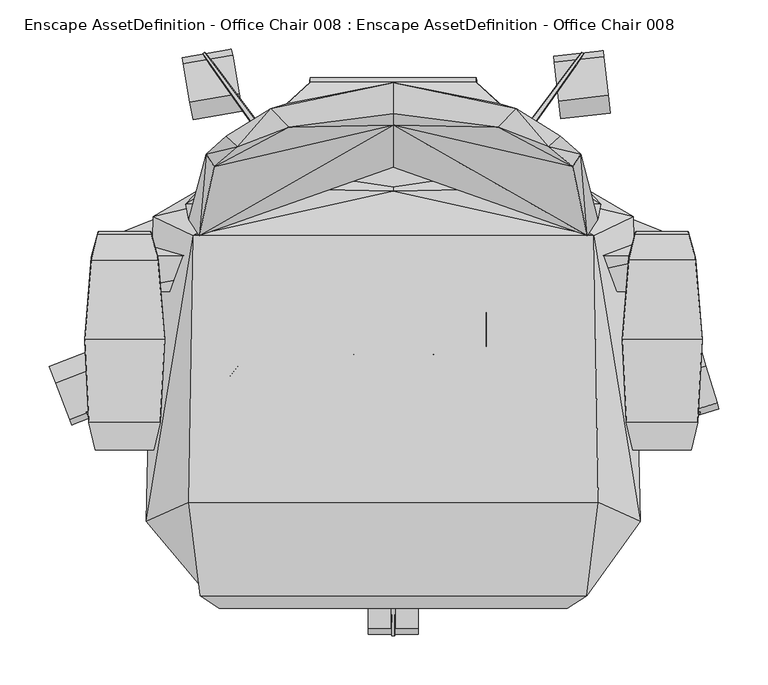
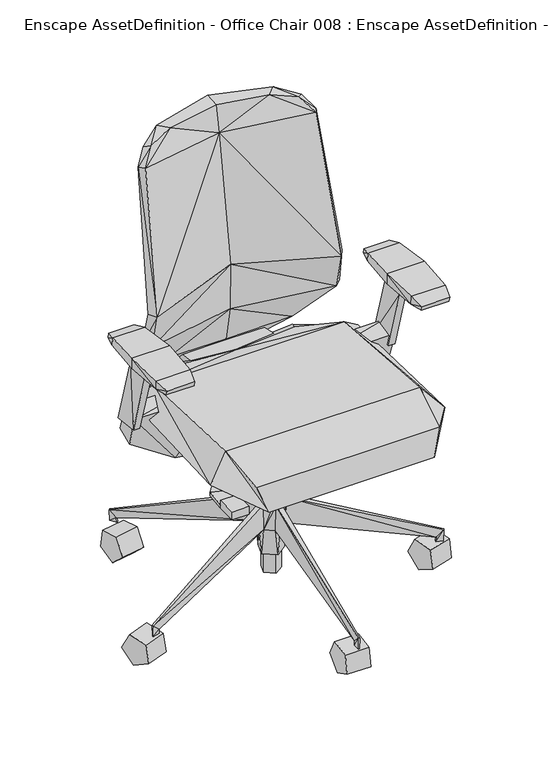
"""IFC4 building model written with IfcOpenShell, lengths in millimetres: geographic element geometry, Enscape AssetDefinition - Office Chair 008 : Enscape AssetDefinition - Office Chair 008."""

from ifc_helpers import new_model, si_unit, origin, place, context, project, spatial, triangles, source, transform, mapped, element, save


def enscape_assetdefinition_office_chair_008_enscape_9297afb8(model_context):
    return source(origin(), model_context, "Body", "Tessellation", [
        triangles([(94.0160001, -169.0780154, 350.5330007), (-41.1500001, 32.5150007, 276.5299959), (0.0, 42.3710011, 276.5299959), (-69.9929979, -44.1749971, 277.4339923), (0.0, -44.1749971, 277.4339923), (0.0, 42.3710011, 392.1990257), (-41.1500001, 32.5150007, 392.1990257), (-69.9929979, -42.6339983, 392.1990257), (0.0, -195.0089908, 392.1990257), (64.8010001, -195.0089908, 392.1990257), (69.9929979, -42.6339983, 392.1990257), (41.1500001, 32.5150007, 276.5299959), (41.1500001, 32.5150007, 392.1990257), (69.9929979, -44.1749971, 277.4339923), (94.0160001, -44.1749971, 287.9039928), (94.0160001, -167.0699985, 392.1990257), (94.0160001, -42.6339983, 392.1990257), (64.8010001, -197.0170077, 364.5410119), (0.0, -197.0170077, 364.5410119), (-64.8010001, -197.0170077, 364.5410119), (-94.0160001, -169.0780154, 350.5330007), (-94.0160001, -44.1749971, 287.9039928), (-94.0160001, -42.6339983, 392.1990257), (-94.0160001, -167.0699985, 392.1990257), (-64.8010001, -195.0089908, 392.1990257), (99.6929973, 132.0540035, 384.2819944), (171.6740052, 99.9650011, 374.3849968), (0.0, 159.2989975, 449.055003), (0.0, 132.0620063, 384.3080103), (0.0, 97.5530026, 376.0269751), (244.393004, 98.9459953, 456.6650036), (251.576014, -211.6129918, 455.6229887), (139.2340068, 160.859004, 457.6929932), (204.0370008, 79.8559996, 489.5670287), (-99.6929973, 132.0540035, 384.2819944), (-139.2340068, 160.859004, 457.6929932), (-171.6740052, 99.9650011, 374.3849968), (-244.393004, 98.9459953, 456.6650036), (-123.9359943, 127.2830102, 477.9960053), (-171.8530096, -198.8829912, 386.9519986), (-109.2199958, -217.8680061, 376.5969984), (-208.5659939, -192.4750066, 505.0380321), (-177.3339977, -300.5470074, 422.4410025), (-251.576014, -211.6129918, 455.6229887), (0.0, 124.7010003, 471.6459932), (-204.0370008, 79.8559996, 489.5670287), (0.0, 79.8559996, 489.5670287), (-196.986995, -287.4579989, 476.4519862), (0.0, -300.5470074, 422.4410025), (196.986995, -287.4579989, 476.4519862), (0.0, -192.4750066, 505.0380321), (0.0, -287.4579989, 476.4519862), (208.5659939, -192.4750066, 505.0380321), (123.9359943, 127.2830102, 477.9960053), (109.2199958, -217.8680061, 376.5969984), (177.3339977, -300.5470074, 422.4410025), (0.0, -221.1680045, 374.0479897), (171.8530096, -198.8829912, 386.9519986), (0.0, -198.8839904, 386.9839734), (0.0, -11.5080003, 239.8640109), (10.9449999, -3.556, 239.8640109), (0.0, -11.5080003, 278.967002), (10.9449999, -3.556, 278.967002), (6.7639999, 9.3099996, 278.967002), (-6.7639999, 9.3099996, 239.8640109), (-10.9449999, -3.556, 278.967002), (-24.882, -8.0850006, 239.8640109), (-10.9449999, -3.556, 239.8640109), (-6.7639999, 9.3099996, 278.967002), (6.7639999, 9.3099996, 239.8640109), (24.882, -8.0850006, 239.8640109), (15.3780005, 21.166, 239.8640109), (12.2360003, 25.5870011, 211.4469954), (184.992996, 252.1330112, 66.4979986), (194.2500073, 264.9049969, 91.141003), (191.9119959, 266.6099982, 91.1449998), (10.9360001, 24.5560002, 153.8469865), (186.0129919, 252.3950047, 76.8970051), (191.7420027, 265.6599835, 66.4490009), (182.5610042, 254.9040085, 76.8970051), (182.6259893, 253.8520015, 66.4979986), (193.4059999, 264.4509912, 66.4490009), (19.974998, 17.9890001, 153.8469865), (25.0069992, -8.1249997, 97.0370003), (20.5529992, 19.5439992, 211.4469954), (28.1160005, -3.7310001, 211.4469954), (24.9390006, -13.5080009, 211.4469954), (297.5240088, -98.9150016, 76.8970051), (311.965987, -102.8820014, 91.141003), (296.9580005, -98.0250032, 66.4979986), (311.2739871, -102.2209953, 66.4490009), (312.8649874, -100.1320058, 91.1449998), (311.9099948, -100.2640017, 66.4490009), (26.7339991, -2.8119999, 153.8469865), (298.8420061, -94.8560015, 76.8970051), (297.8619969, -95.2429964, 66.4979986), (23.2810008, -13.4389996, 153.8469865), (15.455, 21.2720005, 97.0370003), (-18.883999, -6.1360001, 97.0370003), (0.0, -19.8560009, 97.0370003), (0.0, -26.2940005, 97.0370003), (18.883999, -6.1360001, 97.0370003), (-10.9360001, 24.5560002, 153.8469865), (11.6710002, 16.0639995, 97.0370003), (-11.6710002, 16.0639995, 97.0370003), (11.6710002, 16.0639995, 51.6509988), (0.0, 0.0, 51.6509988), (18.883999, -6.1360001, 51.6509988), (0.0, -19.8560009, 51.6509988), (-18.883999, -6.1360001, 51.6509988), (-11.6710002, 16.0639995, 51.6509988), (-25.0069992, -8.1249997, 97.0370003), (5.587, -26.2940005, 153.8469865), (-5.1400001, -27.8919998, 211.4469954), (-5.587, -26.2940005, 153.8469865), (-2.1339999, -313.527992, 76.8970051), (2.1339999, -313.527992, 76.8970051), (0.0, -26.1630015, 239.8640109), (5.1400001, -27.8919998, 211.4469954), (-1.4440001, -328.4889974, 91.141003), (1.4629999, -312.7149965, 66.4979986), (-1.462, -312.7149965, 66.4979986), (1.029, -327.626986, 66.4490009), (1.4499999, -328.4949926, 91.1449998), (-1.029, -327.626986, 66.4490009), (-23.2810008, -13.4389996, 153.8469865), (-15.3780005, 21.166, 239.8640109), (-24.9390006, -13.5080009, 211.4469954), (-312.8579747, -100.1349943, 91.141003), (-311.9690028, -102.889005, 91.1449998), (-311.9099948, -100.2640017, 66.4490009), (-28.1160005, -3.7310001, 211.4469954), (-297.8619969, -95.2439956, 66.4979986), (-311.2739871, -102.2209953, 66.4490009), (-297.5240088, -98.9150016, 76.8970051), (-296.9580005, -98.0250032, 66.4979986), (-26.7339991, -2.8119999, 153.8469865), (-298.8420061, -94.8560015, 76.8970051), (-15.455, 21.2720005, 97.0370003), (-19.974998, 17.9890001, 153.8469865), (-20.5529992, 19.5439992, 211.4469954), (-194.2570018, 264.9059961, 91.1449998), (-186.0139911, 252.3950047, 76.8970051), (-193.4059999, 264.4509912, 66.4490009), (-191.7420027, 265.6599835, 66.4490009), (-182.5610042, 254.9040085, 76.8970051), (-184.992996, 252.1319939, 66.4979986), (-182.6259893, 253.8520015, 66.4979986), (-12.2360003, 25.5870011, 211.4469954), (-191.9129951, 266.6020045, 91.141003), (265.3310065, 78.0479977, 443.8079759), (265.4019869, 32.7249988, 598.35799), (267.1110033, 25.1849998, 446.0220122), (282.2270137, 78.0489969, 443.803979), (254.2380063, 58.8979992, 628.590992), (282.2209821, 32.7260003, 598.3539931), (293.3889959, 58.8999977, 628.5840157), (280.4549925, 25.1849998, 446.0189964), (266.7880033, -17.8769997, 591.3289859), (256.5459868, -116.0930047, 632.2699825), (291.0929878, -116.0919964, 632.2630062), (280.835002, -17.8919993, 591.3230269), (-265.3310065, 78.0479977, 443.8079759), (-267.1110033, 25.1849998, 446.0220122), (-282.2270137, 78.0489969, 443.803979), (-280.4549925, 25.1849998, 446.0189964), (-280.835002, -17.8919993, 591.3230269), (-282.2209821, 32.7260003, 598.3539931), (-293.3889959, 58.8999977, 628.5840157), (-265.4019869, 32.7249988, 598.35799), (-254.2380063, 58.8979992, 628.590992), (-266.7880033, -17.8769997, 591.3289859), (-291.0929878, -116.0919964, 632.2630062), (-256.5459868, -116.0930047, 632.2699825), (300.649999, 83.552004, 628.2129627), (246.7030011, 81.2509998, 639.752956), (246.9950073, 83.552004, 628.2129627), (300.9420051, 81.2509998, 639.752956), (233.1430003, -26.5650005, 652.7089966), (307.8689987, 54.6889992, 647.7789923), (314.5009704, -26.5650005, 652.7089966), (307.7849922, 57.5309996, 628.7569702), (239.8599958, 57.5309996, 628.7569702), (239.7760075, 54.6889992, 647.7789923), (237.3209975, -109.9969923, 632.1619949), (310.3720073, -110.8620013, 650.921969), (233.1490138, -27.1620003, 630.526993), (314.4959925, -27.1620003, 630.526993), (310.3240088, -109.9969923, 632.1619949), (244.2719903, -136.839004, 632.6929945), (237.272999, -110.8620013, 650.921969), (303.4769885, -139.0189945, 642.7540083), (244.1679996, -139.0189945, 642.7540083), (303.3719985, -136.839004, 632.6929945), (-300.649999, 83.552004, 628.2129627), (-307.8689987, 54.6889992, 647.7789923), (-239.7760075, 54.6889992, 647.7789923), (-246.7030011, 81.2509998, 639.752956), (-300.9420051, 81.2509998, 639.752956), (-307.7849922, 57.5309996, 628.7569702), (-246.9950073, 83.552004, 628.2129627), (-233.1430003, -26.5650005, 652.7089966), (-239.8599958, 57.5309996, 628.7569702), (-233.1490138, -27.1620003, 630.526993), (-314.4959925, -27.1620003, 630.526993), (-310.3720073, -110.8620013, 650.921969), (-314.5009704, -26.5650005, 652.7089966), (-237.272999, -110.8620013, 650.921969), (-310.3240088, -109.9969923, 632.1619949), (-237.3209975, -109.9969923, 632.1619949), (-244.1679996, -139.0189945, 642.7540083), (-303.4769885, -139.0189945, 642.7540083), (-303.3719985, -136.839004, 632.6929945), (-244.2719903, -136.839004, 632.6929945), (158.5589991, 170.0669994, 960.3719759), (106.7039974, 189.8500033, 971.4029886), (125.0949988, 208.7850031, 971.498041), (182.7030014, 149.6749937, 930.0140179), (197.7529912, 79.6329936, 640.7030434), (208.2269885, 95.8360017, 641.5029945), (170.0019961, 181.1300051, 955.8779915), (190.7929872, 162.6500103, 927.6709923), (164.5659907, 177.2689944, 918.9750114), (152.7900016, 186.5900097, 930.5950144), (179.230012, 113.6080001, 644.3430101), (211.4489938, 111.4979999, 564.4789896), (132.3859963, 150.6289962, 484.0080294), (197.2189939, 97.3000021, 563.2050121), (180.6569962, 131.6480054, 581.4279914), (0.0, 186.3210036, 500.2550028), (84.641, 236.2229904, 462.3860207), (157.7440052, 169.3889884, 477.5400012), (106.6820057, 211.0819922, 423.4220109), (134.6069999, 190.1179921, 505.5709937), (0.0, 236.2229904, 462.3860207), (0.0, 173.9290093, 574.8519756), (0.0, 166.9940038, 469.6989827), (0.0, 211.0819922, 423.4220109), (-84.641, 236.2229904, 462.3860207), (-106.6820057, 211.0819922, 423.4220109), (-157.7440052, 169.3889884, 477.5400012), (-134.6069999, 190.1179921, 505.5709937), (-180.6569962, 131.6480054, 581.4279914), (-132.3859963, 150.6289962, 484.0080294), (-211.4489938, 111.4979999, 564.4789896), (0.0, 151.0089966, 546.8200021), (-197.7529912, 79.6329936, 640.7030434), (-197.2189939, 97.3000021, 563.2050121), (0.0, 192.1839997, 921.0860018), (0.0, 149.2670063, 648.7800213), (-182.7030014, 149.6749937, 930.0140179), (0.0, 203.9110092, 978.1129715), (-179.230012, 113.6080001, 644.3430101), (-158.5589991, 170.0669994, 960.3719759), (-190.7929872, 162.6500103, 927.6709923), (-208.2269885, 95.8360017, 641.5029945), (0.0, 175.3589911, 640.2870077), (0.0, 201.5719986, 909.1019949), (0.0, 235.5049928, 979.9230354), (107.8839945, 214.246007, 946.2160086), (0.0, 229.2339911, 952.6510082), (-106.7039974, 189.8500033, 971.4029886), (-107.8839945, 214.246007, 946.2160086), (-152.7900016, 186.5900097, 930.5950144), (-170.0019961, 181.1300051, 955.8779915), (-125.0949988, 208.7850031, 971.498041), (-164.5659907, 177.2689944, 918.9750114), (148.628001, -110.9569991, 328.3299954), (145.8500001, -78.6310017, 327.2929948), (145.8500001, -78.6310017, 334.6819696), (185.0990034, -65.0219986, 327.1949993), (120.8769968, -53.1760011, 330.350984), (148.628001, -110.9569991, 335.2560262), (137.9889974, -26.4930004, 319.3299997), (137.9480024, -26.4769994, 330.2279901), (185.0990034, -65.0219986, 334.6279758), (193.470004, -110.9569991, 328.3349733), (193.470004, -153.247005, 328.3349733), (193.470004, -110.9569991, 335.2580246), (193.4690048, -110.9569991, 343.8839879), (193.4690048, -153.247005, 343.8839879), (148.628001, -153.247005, 328.3299954), (148.6270017, -153.247005, 343.8810084), (148.6270017, -110.9569991, 343.8810084), (38.0880004, -14.9109994, 326.5200042), (38.0880004, -41.6100011, 312.726006), (38.0880004, -14.9109994, 312.5169708), (120.9229969, -53.2000004, 319.3510014), (38.0880004, -41.6100011, 326.6350044), (-134.8800029, -75.7679997, 312.9690145), (-167.3679999, -64.5029987, 312.8730174), (-135.4310049, -110.9569991, 314.0089946), (-135.4310049, -154.1740015, 331.7180154), (-172.0329949, -110.9569991, 314.011974), (-137.1339987, -26.4769994, 315.9039734), (-172.0329949, -154.1740015, 314.011974), (-135.4310049, -154.1740015, 314.0089946), (-135.4310049, -110.9569991, 320.9340079), (-135.4310049, -110.9569991, 331.7180154), (-172.0329949, -154.1740015, 331.7199775), (-172.0329949, -110.9569991, 320.9360064), (-167.3679999, -64.5029987, 320.3059939), (-172.0329949, -110.9569991, 331.7199775), (-134.8800029, -75.7679997, 320.3590067), (-120.1070038, -53.2049964, 305.0300005), (-37.2739989, -41.6100011, 312.3120051), (-37.2739989, -14.9109994, 312.1970049), (-120.0630022, -53.1760011, 316.0299831), (-37.2739989, -14.9109994, 298.1950071), (-37.2739989, -41.6100011, 298.4029886), (-137.1709968, -26.4970018, 305.0039846), (25.4059983, -262.7759844, 27.3310012), (25.4059983, -320.643982, 56.8159997), (-25.4059983, -291.1590085, -1.051), (25.4059983, -326.9229956, 17.1709995), (-25.4059983, -326.9229956, 17.1709995), (-25.4059983, -280.999, 63.0950041), (25.4059983, -280.999, 63.0950041), (-25.4059983, -320.643982, 56.8159997), (25.4059983, -291.1590085, -1.051), (-25.4059983, -262.7759844, 27.3310012), (313.0949879, -35.6899977, 27.3310012), (318.3909945, -53.1259996, 63.0950041), (264.4760078, -50.4569992, 27.3310012), (269.7719964, -67.8929989, 63.0950041), (331.7379996, -97.067994, 17.1709995), (272.7249774, -77.6150027, -1.051), (321.3439756, -62.8480034, -1.051), (329.913002, -91.0599941, 56.8159997), (283.1190014, -111.8350069, 17.1709995), (281.2939857, -105.827007, 56.8159997), (168.5110079, 216.9089985, 63.0950041), (213.6750026, 268.3970076, 17.1709995), (163.2039917, 262.5250005, 17.1709995), (217.8079988, 232.8719958, -1.051), (214.401012, 262.1599973, 56.8159997), (163.9300012, 256.2879902, 56.8159997), (218.9820006, 222.7810056, 63.0950041), (221.088013, 204.6800029, 27.3310012), (170.6170022, 198.8079958, 27.3310012), (167.3370061, 227.0009879, -1.051), (-204.1079993, 197.8940073, 27.3310012), (-207.1979997, 215.8530128, 63.0950041), (-213.9209905, 254.9229936, 56.8159997), (-208.921005, 225.8650107, -1.051), (-163.8449955, 263.5400003, 56.8159997), (-157.1220047, 224.4690022, 63.0950041), (-158.8450099, 234.4819993, -1.051), (-164.9100104, 269.7280128, 17.1709995), (-214.9860054, 261.1109879, 17.1709995), (-154.0320043, 206.5100148, 27.3310012), (-293.152001, -61.8149996, -1.051), (-344.2159807, -70.619999, 63.0950041), (-280.2830009, -95.1839975, 17.1709995), (-282.543001, -89.3250074, 56.8159997), (-329.9509721, -107.6089931, 56.8159997), (-327.6919893, -113.4670022, 17.1709995), (-296.8080096, -52.3359997, 63.0950041), (-350.7729933, -53.6169989, 27.3310012), (-303.3649858, -35.3339988, 27.3310012), (-340.5610076, -80.0989989, -1.051), (-84.5090041, 240.448005, 447.4979759), (-95.1529947, 136.538995, 334.3810069), (-92.5970006, 59.4509996, 481.2119791), (-95.1989948, 167.4199953, 345.2559972), (-94.6059986, 65.2759984, 309.1639778), (-162.1900093, 128.3780015, 331.5659898), (95.1529947, 136.538995, 334.3810069), (84.5090041, 240.448005, 447.4979759), (95.1989948, 167.4199953, 345.2559972), (92.5970006, 59.4509996, 481.2119791), (277.792001, 59.4509996, 481.2119791), (274.9899918, 83.6260002, 412.9900168), (280.037994, 23.0719997, 470.8270025), (277.473979, 43.9609976, 401.694013), (162.1900093, 128.3780015, 331.5659898), (162.1900093, 74.5539976, 312.4800181), (-95.1989948, -41.6900016, 279.3050082), (94.6059986, 65.2759984, 309.1639778), (-95.1989948, -87.4170025, 440.5219846), (95.1989948, -41.6900016, 279.3050082), (95.1989948, -87.4170025, 440.5219846), (94.6059986, 19.5489998, 470.3820079), (-94.6059986, 19.5489998, 470.3820079), (-280.037994, 23.0719997, 470.8270025), (-277.473979, 43.9609976, 401.694013), (-162.1900093, 74.5539976, 312.4800181), (-277.792001, 59.4509996, 481.2119791), (-274.9899918, 83.6260002, 412.9900168)], [[367, 386, 389], [389, 388, 364], [364, 367, 389], [385, 364, 388], [389, 385, 388], [389, 386, 385], [385, 386, 387], [367, 387, 386], [385, 384, 364], [387, 384, 385], [380, 383, 384], [380, 382, 383], [381, 383, 382], [378, 382, 380], [378, 381, 382], [378, 380, 384], [387, 366, 384], [378, 384, 366], [381, 379, 383], [379, 378, 366], [379, 381, 378], [368, 379, 366], [383, 379, 377], [368, 377, 379], [375, 374, 383], [383, 377, 375], [368, 376, 377], [376, 375, 377], [376, 373, 375], [373, 374, 375], [383, 374, 372], [373, 372, 374], [372, 373, 376], [384, 371, 364], [384, 383, 371], [383, 372, 371], [376, 371, 372], [376, 368, 371], [369, 371, 368], [364, 371, 369], [369, 368, 370], [369, 370, 365], [369, 365, 362], [364, 369, 362], [368, 366, 363], [363, 387, 367], [363, 366, 387], [370, 363, 365], [370, 368, 363], [362, 363, 364], [362, 365, 363], [364, 363, 367], [352, 359, 360], [352, 361, 359], [359, 358, 360], [359, 353, 358], [358, 356, 355], [358, 353, 356], [355, 357, 354], [355, 356, 357], [354, 361, 352], [354, 357, 361], [357, 356, 353], [353, 361, 357], [353, 359, 361], [355, 354, 352], [352, 358, 355], [352, 360, 358], [345, 351, 342], [345, 348, 351], [351, 343, 342], [351, 347, 343], [343, 346, 344], [343, 347, 346], [344, 349, 350], [344, 346, 349], [350, 348, 345], [350, 349, 348], [349, 346, 347], [347, 348, 349], [347, 351, 348], [344, 350, 345], [345, 343, 344], [345, 342, 343], [341, 339, 340], [341, 335, 339], [339, 332, 340], [339, 338, 332], [332, 336, 337], [332, 338, 336], [337, 333, 334], [337, 336, 333], [334, 335, 341], [334, 333, 335], [333, 336, 338], [338, 335, 333], [338, 339, 335], [337, 334, 341], [341, 332, 337], [341, 340, 332], [328, 324, 322], [328, 327, 324], [324, 323, 322], [324, 325, 323], [323, 331, 329], [323, 325, 331], [329, 330, 326], [329, 331, 330], [326, 327, 328], [326, 330, 327], [330, 331, 325], [325, 327, 330], [325, 324, 327], [329, 326, 328], [328, 323, 329], [328, 322, 323], [320, 321, 312], [320, 314, 321], [321, 318, 312], [321, 317, 318], [318, 319, 313], [318, 317, 319], [313, 316, 315], [313, 319, 316], [315, 314, 320], [315, 316, 314], [316, 319, 317], [317, 314, 316], [317, 321, 314], [313, 315, 320], [320, 318, 313], [320, 312, 318], [307, 311, 295], [307, 309, 311], [311, 309, 310], [309, 306, 310], [309, 307, 306], [307, 308, 306], [307, 295, 308], [305, 306, 308], [305, 310, 306], [311, 310, 305], [295, 304, 308], [305, 308, 304], [298, 303, 299], [295, 302, 304], [302, 298, 304], [298, 301, 303], [302, 301, 298], [301, 300, 303], [299, 303, 300], [301, 296, 300], [299, 300, 293], [293, 298, 299], [297, 300, 296], [297, 293, 300], [301, 294, 296], [294, 297, 296], [294, 301, 302], [291, 295, 311], [291, 302, 295], [294, 302, 291], [294, 292, 297], [292, 293, 297], [292, 298, 293], [291, 292, 294], [311, 290, 291], [311, 305, 290], [291, 290, 292], [305, 304, 290], [290, 298, 292], [290, 304, 298], [288, 289, 286], [287, 288, 286], [287, 289, 285], [287, 286, 289], [287, 274, 288], [274, 287, 285], [280, 284, 283], [273, 283, 284], [273, 282, 283], [273, 268, 282], [268, 278, 282], [280, 283, 281], [281, 282, 278], [281, 283, 282], [281, 279, 280], [279, 284, 280], [279, 273, 284], [268, 277, 278], [277, 281, 278], [277, 279, 281], [277, 276, 279], [276, 273, 279], [271, 277, 268], [277, 271, 276], [271, 275, 276], [271, 274, 275], [274, 285, 275], [289, 275, 285], [288, 272, 289], [289, 272, 275], [276, 270, 273], [288, 270, 272], [275, 270, 276], [275, 272, 270], [274, 269, 288], [274, 271, 269], [271, 268, 269], [288, 269, 270], [269, 273, 270], [269, 268, 273], [265, 264, 267], [266, 254, 262], [266, 265, 254], [267, 264, 263], [263, 265, 266], [263, 264, 265], [259, 263, 266], [262, 259, 266], [262, 252, 259], [259, 261, 263], [267, 263, 261], [259, 260, 261], [261, 258, 267], [258, 261, 260], [267, 258, 257], [253, 236, 243], [253, 257, 236], [267, 257, 253], [253, 243, 245], [253, 245, 256], [254, 265, 255], [253, 255, 267], [253, 256, 255], [265, 267, 255], [254, 251, 262], [254, 255, 251], [262, 249, 252], [262, 251, 249], [247, 249, 251], [247, 255, 256], [247, 251, 255], [247, 256, 245], [247, 250, 249], [250, 228, 219], [219, 249, 250], [250, 247, 248], [247, 245, 248], [250, 248, 246], [246, 227, 228], [250, 246, 228], [246, 248, 244], [245, 244, 248], [246, 244, 237], [246, 237, 227], [240, 237, 244], [243, 241, 245], [241, 240, 244], [245, 241, 244], [243, 242, 241], [239, 241, 242], [239, 240, 241], [240, 238, 237], [238, 240, 239], [233, 237, 238], [233, 227, 237], [238, 231, 233], [242, 235, 239], [238, 239, 235], [238, 235, 231], [242, 230, 235], [243, 230, 242], [243, 236, 230], [234, 235, 230], [234, 231, 235], [232, 227, 233], [231, 232, 233], [231, 234, 232], [229, 230, 236], [229, 234, 230], [229, 232, 234], [229, 226, 232], [219, 228, 226], [226, 227, 232], [226, 228, 227], [219, 226, 220], [225, 236, 257], [225, 229, 236], [225, 226, 229], [225, 220, 226], [223, 257, 258], [223, 225, 257], [260, 223, 258], [260, 224, 223], [260, 221, 224], [221, 223, 224], [225, 222, 220], [225, 223, 222], [221, 222, 223], [219, 220, 222], [219, 218, 249], [219, 222, 218], [215, 222, 221], [215, 218, 222], [259, 217, 260], [217, 215, 221], [260, 217, 221], [215, 216, 218], [216, 249, 218], [216, 252, 249], [217, 216, 215], [216, 259, 252], [216, 217, 259], [213, 210, 214], [211, 214, 210], [211, 213, 214], [211, 212, 213], [212, 209, 213], [213, 209, 210], [206, 212, 211], [212, 206, 209], [211, 210, 208], [206, 211, 208], [208, 207, 206], [207, 209, 206], [207, 200, 205], [207, 205, 209], [209, 204, 210], [209, 205, 204], [205, 203, 204], [205, 200, 203], [202, 204, 203], [202, 210, 204], [202, 208, 210], [208, 202, 207], [202, 203, 197], [200, 201, 203], [201, 197, 203], [201, 198, 197], [197, 198, 199], [197, 199, 196], [207, 196, 200], [202, 196, 207], [202, 197, 196], [200, 195, 201], [198, 195, 199], [198, 201, 195], [195, 196, 199], [195, 200, 196], [193, 194, 192], [193, 190, 194], [192, 194, 189], [186, 193, 192], [192, 189, 186], [186, 191, 193], [193, 185, 190], [193, 191, 185], [194, 185, 189], [194, 190, 185], [189, 185, 187], [189, 187, 188], [188, 187, 183], [191, 186, 181], [181, 189, 188], [181, 186, 189], [179, 183, 187], [179, 185, 191], [179, 187, 185], [191, 181, 179], [179, 184, 183], [177, 184, 176], [177, 183, 184], [182, 183, 177], [181, 188, 182], [188, 183, 182], [181, 182, 180], [179, 180, 184], [179, 181, 180], [184, 178, 176], [184, 180, 178], [182, 177, 175], [176, 175, 177], [176, 178, 175], [175, 180, 182], [175, 178, 180], [172, 171, 174], [169, 174, 171], [169, 173, 174], [167, 173, 169], [174, 167, 172], [174, 173, 167], [164, 167, 166], [164, 172, 167], [163, 172, 164], [172, 170, 171], [169, 171, 170], [163, 170, 172], [167, 169, 168], [169, 170, 168], [166, 167, 168], [164, 165, 163], [164, 166, 165], [166, 168, 165], [165, 170, 163], [165, 168, 170], [160, 162, 161], [162, 157, 161], [157, 160, 161], [157, 155, 160], [160, 159, 162], [159, 160, 155], [153, 162, 159], [153, 158, 162], [162, 156, 157], [158, 156, 162], [159, 155, 152], [157, 152, 155], [157, 156, 152], [151, 159, 152], [151, 153, 159], [153, 154, 158], [153, 151, 154], [158, 154, 156], [154, 152, 156], [154, 151, 152], [150, 148, 145], [132, 127, 141], [141, 149, 150], [127, 149, 141], [150, 146, 148], [149, 146, 150], [146, 147, 148], [148, 144, 145], [148, 147, 144], [141, 150, 142], [142, 145, 144], [142, 150, 145], [146, 143, 147], [143, 144, 147], [143, 142, 144], [149, 103, 146], [103, 143, 146], [140, 142, 143], [140, 141, 142], [132, 141, 140], [103, 140, 143], [132, 140, 139], [140, 103, 139], [137, 132, 139], [138, 135, 136], [132, 137, 138], [137, 135, 138], [138, 136, 133], [133, 136, 134], [135, 134, 136], [133, 134, 131], [129, 133, 131], [129, 138, 133], [132, 138, 129], [130, 131, 134], [130, 129, 131], [135, 130, 134], [128, 129, 130], [128, 132, 129], [67, 132, 128], [132, 67, 127], [126, 130, 135], [126, 128, 130], [137, 126, 135], [67, 128, 126], [126, 118, 67], [122, 123, 125], [122, 121, 123], [120, 122, 125], [124, 125, 123], [124, 120, 125], [117, 123, 121], [117, 124, 123], [116, 121, 122], [116, 117, 121], [120, 116, 122], [114, 116, 120], [126, 114, 118], [119, 120, 124], [119, 114, 120], [118, 114, 119], [97, 118, 119], [113, 124, 117], [113, 119, 124], [97, 119, 113], [114, 115, 116], [115, 117, 116], [115, 113, 117], [126, 115, 114], [97, 113, 101], [113, 115, 101], [126, 101, 115], [126, 137, 112], [139, 112, 137], [126, 112, 101], [101, 112, 99], [99, 111, 110], [99, 105, 111], [112, 105, 99], [112, 139, 105], [105, 106, 111], [110, 111, 107], [111, 106, 107], [109, 110, 107], [106, 108, 107], [108, 109, 107], [105, 104, 106], [139, 104, 105], [104, 108, 106], [103, 149, 98], [98, 139, 103], [139, 98, 104], [104, 102, 108], [98, 102, 104], [102, 109, 108], [102, 100, 109], [101, 99, 100], [100, 110, 109], [100, 99, 110], [98, 84, 102], [97, 101, 84], [84, 100, 102], [84, 101, 100], [94, 97, 84], [95, 93, 96], [97, 94, 95], [88, 95, 96], [97, 95, 88], [90, 96, 93], [88, 96, 90], [90, 93, 91], [94, 92, 95], [92, 91, 93], [95, 92, 93], [92, 89, 91], [89, 90, 91], [89, 88, 90], [87, 88, 89], [87, 97, 88], [94, 86, 92], [86, 89, 92], [86, 87, 89], [71, 87, 86], [97, 71, 118], [97, 87, 71], [118, 71, 61], [85, 94, 84], [85, 86, 94], [85, 71, 86], [83, 85, 84], [84, 98, 83], [74, 79, 82], [74, 81, 79], [78, 81, 74], [85, 83, 78], [78, 80, 81], [80, 79, 81], [83, 80, 78], [149, 77, 98], [77, 83, 98], [83, 77, 80], [77, 76, 80], [76, 82, 79], [80, 76, 79], [76, 75, 82], [75, 74, 82], [75, 78, 74], [85, 78, 75], [77, 73, 76], [149, 73, 77], [73, 75, 76], [73, 85, 75], [149, 72, 73], [149, 127, 72], [72, 85, 73], [85, 72, 71], [71, 70, 61], [71, 72, 70], [61, 70, 64], [70, 69, 64], [72, 65, 70], [72, 127, 65], [70, 65, 69], [127, 68, 65], [127, 67, 68], [68, 67, 118], [64, 69, 66], [65, 66, 69], [65, 68, 66], [66, 63, 64], [66, 62, 63], [61, 64, 63], [66, 60, 62], [66, 68, 60], [68, 118, 60], [118, 61, 60], [60, 63, 62], [60, 61, 63], [40, 30, 59], [58, 59, 30], [57, 40, 59], [57, 41, 40], [57, 59, 58], [41, 57, 49], [55, 49, 57], [57, 58, 55], [55, 56, 49], [32, 55, 58], [32, 56, 55], [50, 56, 32], [49, 56, 50], [50, 32, 53], [32, 34, 53], [45, 34, 54], [53, 34, 47], [45, 47, 34], [53, 47, 51], [53, 52, 50], [53, 51, 52], [49, 50, 52], [49, 52, 48], [41, 49, 43], [49, 48, 43], [43, 48, 42], [42, 51, 47], [42, 52, 51], [42, 48, 52], [42, 47, 46], [45, 46, 47], [45, 39, 46], [43, 42, 44], [44, 42, 46], [44, 41, 43], [44, 40, 41], [37, 40, 44], [40, 37, 30], [37, 44, 38], [38, 46, 39], [44, 46, 38], [45, 36, 39], [38, 39, 36], [35, 38, 36], [35, 37, 38], [35, 30, 37], [35, 29, 30], [45, 28, 36], [28, 35, 36], [28, 29, 35], [45, 33, 28], [45, 54, 33], [31, 54, 34], [31, 33, 54], [32, 31, 34], [27, 32, 58], [27, 31, 32], [58, 30, 27], [28, 26, 29], [28, 33, 26], [26, 31, 27], [26, 33, 31], [26, 30, 29], [26, 27, 30], [23, 25, 9], [23, 24, 25], [22, 24, 23], [21, 25, 24], [22, 21, 24], [21, 20, 25], [20, 9, 25], [20, 19, 9], [19, 21, 22], [19, 20, 21], [18, 9, 19], [18, 10, 9], [1, 10, 18], [1, 16, 10], [1, 18, 19], [15, 16, 1], [10, 16, 17], [15, 17, 16], [14, 17, 15], [14, 15, 1], [12, 11, 14], [10, 17, 11], [14, 11, 17], [12, 13, 11], [10, 11, 13], [6, 9, 10], [10, 13, 6], [12, 6, 13], [9, 6, 7], [9, 8, 23], [9, 7, 8], [4, 23, 8], [4, 22, 23], [19, 22, 4], [2, 8, 7], [2, 4, 8], [2, 7, 6], [2, 6, 3], [12, 3, 6], [4, 5, 19], [5, 2, 3], [5, 4, 2], [1, 5, 14], [1, 19, 5], [5, 12, 14], [5, 3, 12]]),
    ])


if __name__ == "__main__":
    model = new_model("IFC4")
    model_context = context("Model", 3, world=origin())
    ifc_project = project(units=[si_unit("LENGTHUNIT", "METRE", prefix="MILLI")], contexts=[model_context])
    site = spatial("IfcSite", under=ifc_project)
    building = spatial("IfcBuilding", under=site)
    placement = place(None, origin())
    enscape_assetdefinition_office_chair_008_enscape_shape = enscape_assetdefinition_office_chair_008_enscape_9297afb8(model_context)
    element("IfcGeographicElement", 1, ObjectType="Enscape AssetDefinition - Office Chair 008 : Enscape AssetDefinition - Office Chair 008", at=placement, inside=building, context=model_context, shape_type="MappedRepresentation", body=[
        mapped(enscape_assetdefinition_office_chair_008_enscape_shape, transform((0.0, 0.0, 0.0), x_axis=(1.0, 0.0, 0.0), y_axis=(0.0, 1.0, 0.0), z_axis=(0.0, 0.0, 1.0))),
    ])
    save(model, "model.ifc")
